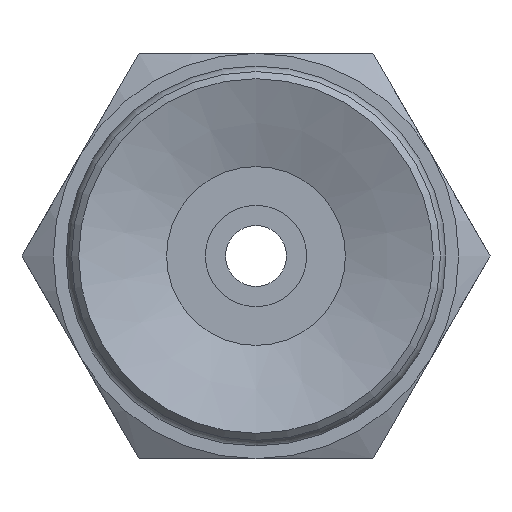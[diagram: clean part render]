
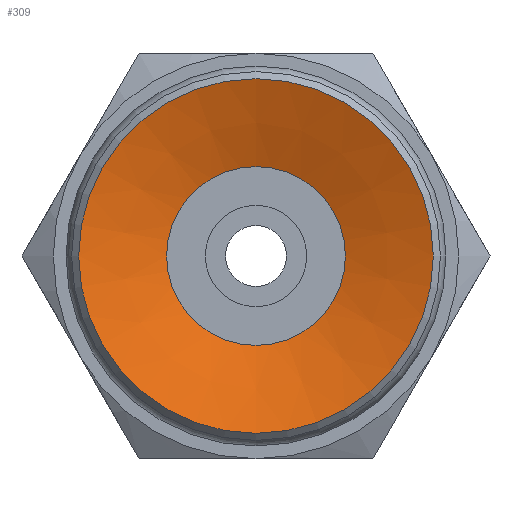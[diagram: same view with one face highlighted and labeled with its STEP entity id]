
A CAD part, front view. The second image highlights one B-rep face of the part: STEP entity #309.
In plain terms, the highlighted conical face has half-angle 70 degrees and reference radius 3.5 mm.
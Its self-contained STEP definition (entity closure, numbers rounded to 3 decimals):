
#309=ADVANCED_FACE('',(#441,#442),#443,.F.);
#441=FACE_BOUND('',#616,.T.);
#442=FACE_OUTER_BOUND('',#617,.T.);
#443=CONICAL_SURFACE('',#618,3.5,1.222);
#616=EDGE_LOOP('',(#916));
#617=EDGE_LOOP('',(#917));
#618=AXIS2_PLACEMENT_3D('',#918,#919,#920);
#916=ORIENTED_EDGE('',*,*,#1085,.F.);
#917=ORIENTED_EDGE('',*,*,#1079,.T.);
#918=CARTESIAN_POINT('',(0.0,0.0,0.0));
#919=DIRECTION('',(-0.0,-1.0,0.));
#920=DIRECTION('',(0.0,0.,-1.0));
#1079=EDGE_CURVE('',#1199,#1199,#1200,.T.);
#1085=EDGE_CURVE('',#1211,#1211,#1212,.T.);
#1199=VERTEX_POINT('',#1381);
#1200=CIRCLE('',#1382,3.5);
#1211=VERTEX_POINT('',#1393);
#1212=CIRCLE('',#1394,1.765);
#1381=CARTESIAN_POINT('',(0.0,0.,-3.5));
#1382=AXIS2_PLACEMENT_3D('',#1532,#1533,#1534);
#1393=CARTESIAN_POINT('',(0.0,0.632,-1.765));
#1394=AXIS2_PLACEMENT_3D('',#1550,#1551,#1552);
#1532=CARTESIAN_POINT('',(0.0,0.0,0.0));
#1533=DIRECTION('',(0.0,-1.0,0.));
#1534=DIRECTION('',(0.0,0.,-1.0));
#1550=CARTESIAN_POINT('',(0.0,0.632,0.0));
#1551=DIRECTION('',(0.0,-1.0,0.));
#1552=DIRECTION('',(0.0,0.,-1.0));
